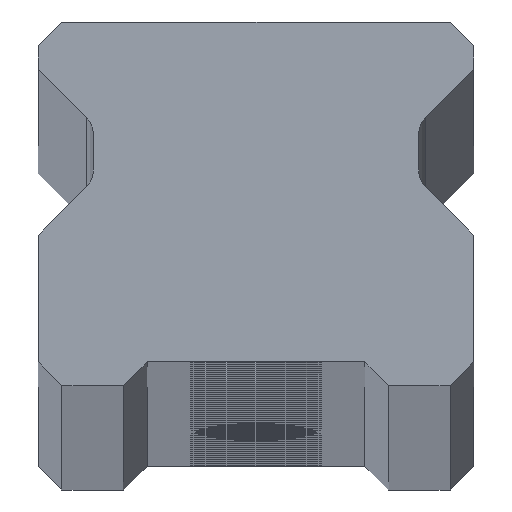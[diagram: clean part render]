
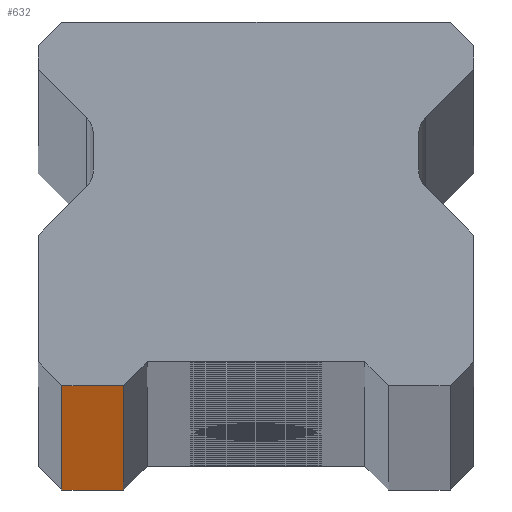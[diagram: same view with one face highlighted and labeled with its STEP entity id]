
A CAD part, top view. The second image highlights one B-rep face of the part: STEP entity #632.
In plain terms, the highlighted planar face has unit normal (0, -1, 0).
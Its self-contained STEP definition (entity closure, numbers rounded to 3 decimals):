
#632 = ADVANCED_FACE ( 'NONE', ( #2458 ), #1758, .F. ) ;
#974 = CARTESIAN_POINT ( 'NONE',  ( -7., 0., -1580. ) ) ;
#1023 = VECTOR ( 'NONE', #1721, 1000. ) ;
#1233 = EDGE_CURVE ( 'NONE', #3580, #5057, #8746, .T. ) ;
#1542 = CARTESIAN_POINT ( 'NONE',  ( -10.25, 0., -1580. ) ) ;
#1721 = DIRECTION ( 'NONE',  ( 0., 0., 1. ) ) ;
#1758 = PLANE ( 'NONE',  #3942 ) ;
#1806 = LINE ( 'NONE', #7272, #1023 ) ;
#1958 = VERTEX_POINT ( 'NONE', #2063 ) ;
#2060 = CARTESIAN_POINT ( 'NONE',  ( -10.25, 0., 1580. ) ) ;
#2063 = CARTESIAN_POINT ( 'NONE',  ( -7., 0., 1580. ) ) ;
#2371 = VERTEX_POINT ( 'NONE', #2060 ) ;
#2458 = FACE_OUTER_BOUND ( 'NONE', #6526, .T. ) ;
#2590 = DIRECTION ( 'NONE',  ( 1., 0., 0. ) ) ;
#2769 = VECTOR ( 'NONE', #7131, 1000. ) ;
#3229 = DIRECTION ( 'NONE',  ( -1., 0., 0. ) ) ;
#3516 = LINE ( 'NONE', #7496, #8971 ) ;
#3580 = VERTEX_POINT ( 'NONE', #1542 ) ;
#3666 = ORIENTED_EDGE ( 'NONE', *, *, #8123, .T. ) ;
#3942 = AXIS2_PLACEMENT_3D ( 'NONE', #8726, #7349, #3229 ) ;
#4270 = VECTOR ( 'NONE', #2590, 1000. ) ;
#4746 = DIRECTION ( 'NONE',  ( 1., 0., 0. ) ) ;
#4900 = ORIENTED_EDGE ( 'NONE', *, *, #5995, .T. ) ;
#5057 = VERTEX_POINT ( 'NONE', #974 ) ;
#5361 = ORIENTED_EDGE ( 'NONE', *, *, #1233, .T. ) ;
#5627 = EDGE_CURVE ( 'NONE', #2371, #1958, #3516, .T. ) ;
#5995 = EDGE_CURVE ( 'NONE', #2371, #3580, #7192, .T. ) ;
#6454 = CARTESIAN_POINT ( 'NONE',  ( -10.25, 0., 1580. ) ) ;
#6526 = EDGE_LOOP ( 'NONE', ( #5361, #3666, #8843, #4900 ) ) ;
#7131 = DIRECTION ( 'NONE',  ( 0., 0., -1. ) ) ;
#7192 = LINE ( 'NONE', #6454, #2769 ) ;
#7272 = CARTESIAN_POINT ( 'NONE',  ( -7., 0., -1580. ) ) ;
#7349 = DIRECTION ( 'NONE',  ( 0., 1., 0. ) ) ;
#7496 = CARTESIAN_POINT ( 'NONE',  ( 11.5, 0., 1580. ) ) ;
#8123 = EDGE_CURVE ( 'NONE', #5057, #1958, #1806, .T. ) ;
#8204 = CARTESIAN_POINT ( 'NONE',  ( 11.5, 0., -1580. ) ) ;
#8726 = CARTESIAN_POINT ( 'NONE',  ( 11.5, 0., 1580. ) ) ;
#8746 = LINE ( 'NONE', #8204, #4270 ) ;
#8843 = ORIENTED_EDGE ( 'NONE', *, *, #5627, .F. ) ;
#8971 = VECTOR ( 'NONE', #4746, 1000. ) ;
